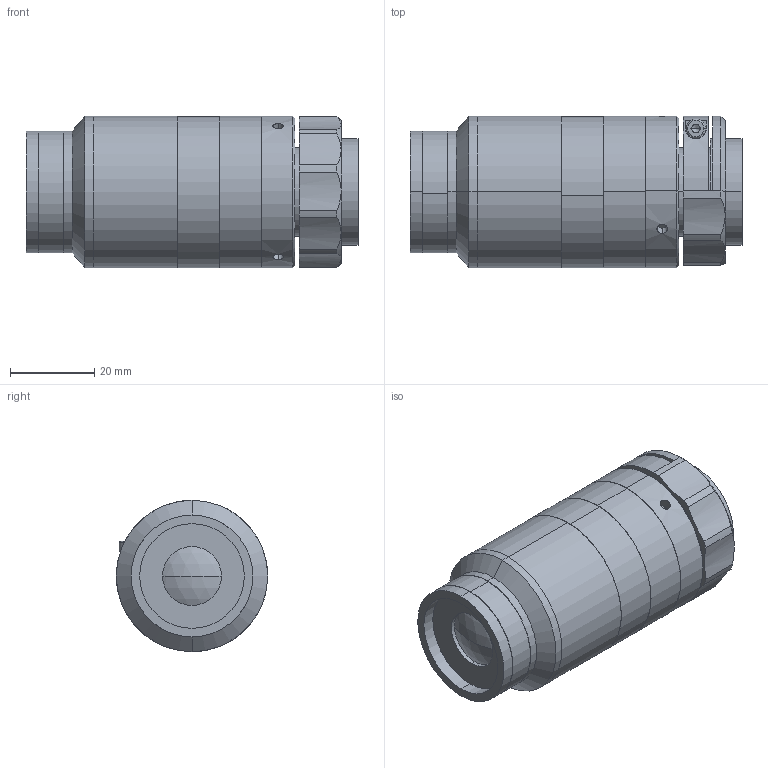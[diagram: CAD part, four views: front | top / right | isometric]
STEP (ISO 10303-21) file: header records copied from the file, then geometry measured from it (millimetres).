
FILE_DESCRIPTION (( 'STEP AP203' ), '1' );
FILE_NAME ('XF-MH085X75.STEP', '2020-08-24T07:06:26', ( 'canrill-02' ), ( '' ), 'SwSTEP 2.0', 'SolidWorks 2014', '' );
FILE_SCHEMA (( 'CONFIG_CONTROL_DESIGN' ));
Length unit declared in the file: millimetre
Products named in the file (1): XF-MH085X75
Bounding box: 79.02 x 36 x 36 mm (x, y, z)
Surface area: 15425.5 mm2 (no closed solid volume)
Topology: 0 solids, 13 shells, 107 faces, 284 edges, 194 vertices
Faces by surface type: cylinder 51, plane 37, cone 15, sphere 2, torus 2
Entity records: 3717 total; most frequent: CARTESIAN_POINT 905, DIRECTION 631, ORIENTED_EDGE 479, EDGE_CURVE 282, AXIS2_PLACEMENT_3D 264, VERTEX_POINT 194, CIRCLE 156, EDGE_LOOP 135
